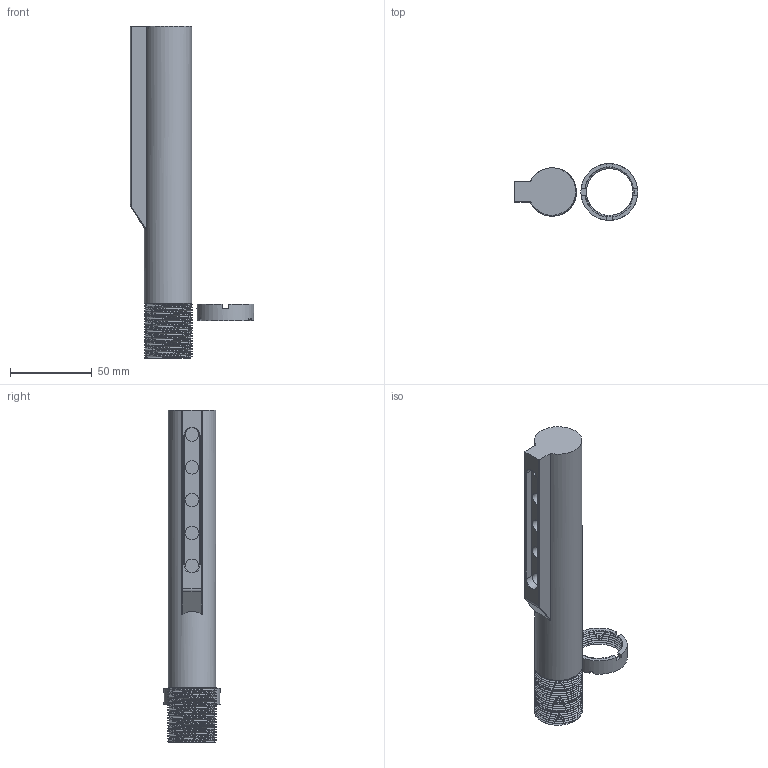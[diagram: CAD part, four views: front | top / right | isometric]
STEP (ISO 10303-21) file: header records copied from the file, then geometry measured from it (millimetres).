
FILE_DESCRIPTION(/* description */ (''),/* implementation_level */ '2;1');
FILE_NAME(/* name */ 'C:/Users/Mussy/Desktop/BUFFER AND CASTLE NUT .stp',/* time_stamp */ '2018-11-12T01:09:20+03:00',/* author */ (''),/* organization */ (''),/* preprocessor_version */ 'ST-DEVELOPER v15.2',/* originating_system */ 'Autodesk Translator Framework v2.0.0.5431',/* authorisation */ '');
FILE_SCHEMA (('AUTOMOTIVE_DESIGN { 1 0 10303 214 3 1 1 }'));
Products named in the file (1): BUFFER TUBE
Bounding box: 75.34 x 34.67 x 202.53 mm (x, y, z)
Volume: 70312.2 mm3; surface area: 42008.2 mm2
Topology: 2 solids, 2 shells, 112 faces, 397 edges, 295 vertices
Faces by surface type: plane 48, bspline 34, cylinder 24, torus 4, cone 2
Full cylindrical faces by diameter (mm): 8.2 x5, 22 x1, 29 x1, 34.68 x1
Entity records: 29254 total; most frequent: CARTESIAN_POINT 26380, ORIENTED_EDGE 772, EDGE_CURVE 386, DIRECTION 360, VERTEX_POINT 293, B_SPLINE_CURVE_WITH_KNOTS 219, AXIS2_PLACEMENT_3D 139, EDGE_LOOP 129
